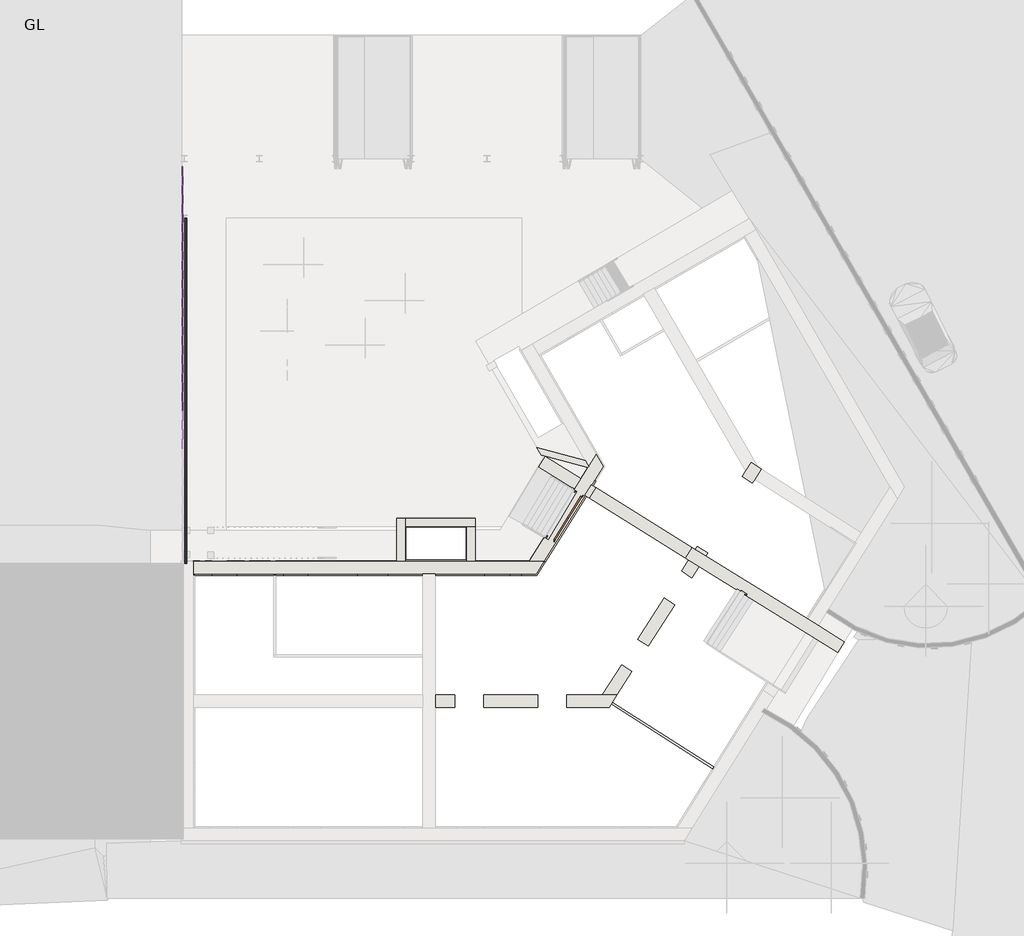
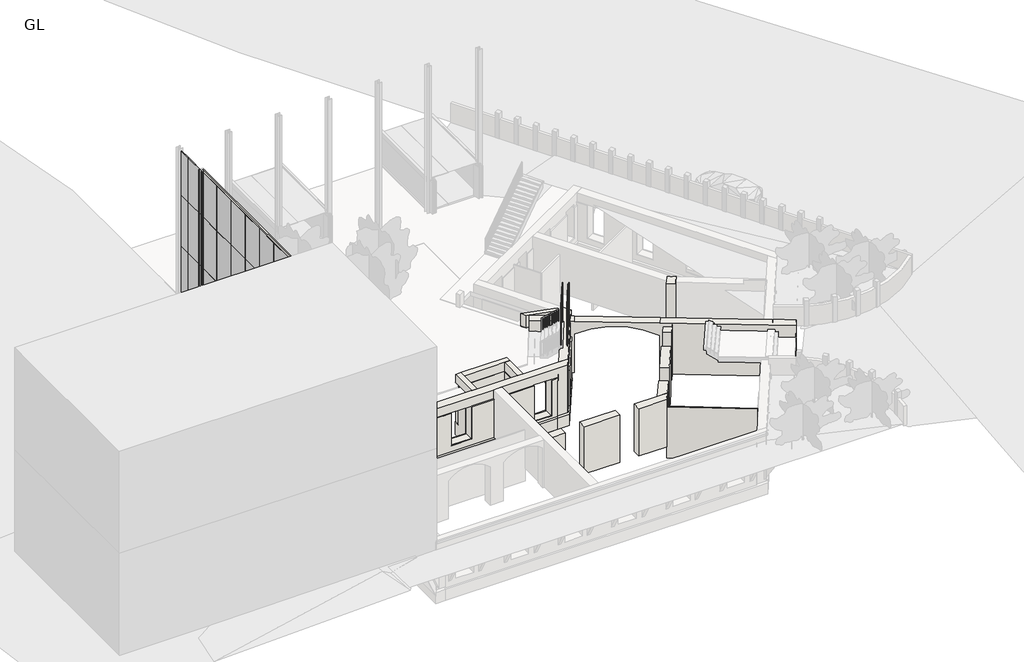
# One storey, part 2 of 6: 22 plates, 21 walls, 1 door.
"""IFC4 building model written with IfcOpenShell, lengths in millimetres."""

import ifcopenshell
import ifcopenshell.guid

model = None  # the IFC model being written
_history = None  # IfcOwnerHistory: only IFC2X3 demands one
_inside = {}  # id of a spatial element -> (the spatial element, [elements in it])
_under = {}  # id of a project, library or spatial element -> (it, [spatial elements below it])
_declared = {}  # id of a project -> (the project, [libraries it declares])
_typed = {}  # id of a type object -> (the type object, [elements of that type])
_made_of = {}  # id of a material, layer set ... -> (it, [elements and type objects made of it])


def new_model(schema):
    """Start an empty IFC model of exactly this schema.

    Asked for "IFC4X3", IfcOpenShell would pick the latest addendum, in which some entities
    have other attributes; the version numbers below select the first issue.
    IFC2X3 requires an IfcOwnerHistory on every rooted entity: one is made here for all.
    """
    global model, _history
    if schema == "IFC4X3":
        model = ifcopenshell.file(schema_version=(4, 3, 0, 0))
    else:
        model = ifcopenshell.file(schema=schema)
    _inside.clear()
    _under.clear()
    _declared.clear()
    _typed.clear()
    _made_of.clear()
    _history = None
    if model.schema == "IFC2X3":
        org = make("IfcOrganization", Name="unknown")
        user = make(
            "IfcPersonAndOrganization",
            ThePerson=make("IfcPerson", FamilyName="unknown"),
            TheOrganization=org,
        )
        app = make(
            "IfcApplication",
            ApplicationDeveloper=org,
            Version="unknown",
            ApplicationFullName="unknown",
            ApplicationIdentifier="unknown",
        )
        _history = make(
            "IfcOwnerHistory",
            OwningUser=user,
            OwningApplication=app,
            ChangeAction="ADDED",
            CreationDate=0,
        )
    return model


def make(cls, **values):
    """One entity of the class cls with the attributes given. An attribute that is None is left unset."""
    return model.create_entity(
        cls, **{name: value for name, value in values.items() if value is not None}
    )


def rooted(cls, **values):
    """An entity with a GlobalId (a new one), such as an element, a storey or a relation."""
    return make(cls, GlobalId=ifcopenshell.guid.new(), OwnerHistory=_history, **values)


def si_unit(unit_type, name, prefix=None):
    """IfcSIUnit, for example si_unit("LENGTHUNIT", "METRE", prefix="MILLI")."""
    return make("IfcSIUnit", UnitType=unit_type, Prefix=prefix, Name=name)


def assignment(units):
    """IfcUnitAssignment: the units of a project."""
    return None if units is None else make("IfcUnitAssignment", Units=units)


def point(xyz):
    """IfcCartesianPoint."""
    return None if xyz is None else make("IfcCartesianPoint", Coordinates=xyz)


def direction(xyz):
    """IfcDirection."""
    return None if xyz is None else make("IfcDirection", DirectionRatios=xyz)


def frame(location, z_axis=None, x_axis=None):
    """IfcAxis2Placement3D, a coordinate frame: its origin and axes. An axis left out is left unset."""
    return make(
        "IfcAxis2Placement3D",
        Location=point(location),
        Axis=direction(z_axis),
        RefDirection=direction(x_axis),
    )


def origin():
    """The frame at (0, 0, 0) with its axes left unset."""
    return frame((0.0, 0.0, 0.0))


def origin_with_axes():
    """The frame at (0, 0, 0) with the z axis (0, 0, 1) and the x axis (1, 0, 0) written out."""
    return frame((0.0, 0.0, 0.0), z_axis=(0.0, 0.0, 1.0), x_axis=(1.0, 0.0, 0.0))


def place(relative_to, where):
    """IfcLocalPlacement: puts the frame where relative to a parent placement (None: the world)."""
    return make(
        "IfcLocalPlacement", PlacementRelTo=relative_to, RelativePlacement=where
    )


def context(
    kind, dimensions, precision=None, world=None, true_north=None, identifier=None
):
    """IfcGeometricRepresentationContext, for example the 3D "Model" context."""
    return make(
        "IfcGeometricRepresentationContext",
        ContextIdentifier=identifier,
        ContextType=kind,
        CoordinateSpaceDimension=dimensions,
        Precision=precision,
        WorldCoordinateSystem=world,
        TrueNorth=true_north,
    )


def project(units=None, contexts=None):
    """IfcProject with its units and contexts."""
    return rooted(
        "IfcProject",
        Name="project",
        RepresentationContexts=contexts,
        UnitsInContext=assignment(units),
    )


def spatial(cls, under=None, at=None, **own):
    """A site, building, storey or space (cls), placed at a placement, below another one or the project."""
    s = rooted(cls, ObjectPlacement=at, **own)
    if under is not None:
        _under.setdefault(under.id(), (under, []))[1].append(s)
    return s


def polyline(points):
    """IfcPolyline through the points."""
    return make("IfcPolyline", Points=[point(p) for p in points])


def circle_curve(where, radius):
    """IfcCircle in the frame where."""
    return make("IfcCircle", Position=where, Radius=radius)


def outline(outer, holes=None, kind="AREA"):
    """IfcArbitraryClosedProfileDef: a profile drawn as a closed curve; with holes, ...WithVoids."""
    if holes is None:
        return make("IfcArbitraryClosedProfileDef", ProfileType=kind, OuterCurve=outer)
    return make(
        "IfcArbitraryProfileDefWithVoids",
        ProfileType=kind,
        OuterCurve=outer,
        InnerCurves=holes,
    )


def extrude(swept, where, along, depth):
    """IfcExtrudedAreaSolid: the profile swept, set in the frame where, extruded along a direction by depth."""
    return make(
        "IfcExtrudedAreaSolid",
        SweptArea=swept,
        Position=where,
        ExtrudedDirection=direction(along),
        Depth=depth,
    )


def faces_of(points, faces, orient=None, outer=None):
    """IfcFace entities. A face is a list of loops; a loop is a list of indices into points, from 0.

    orient and outer hold one flag for each loop. By default every Orientation is true, the
    first loop of a face is its IfcFaceOuterBound and the others are IfcFaceBound.
    """
    made = []
    for i, loops in enumerate(faces):
        bounds = []
        for j, loop in enumerate(loops):
            is_outer = j == 0 if outer is None else outer[i][j]
            bounds.append(
                make(
                    "IfcFaceOuterBound" if is_outer else "IfcFaceBound",
                    Bound=make("IfcPolyLoop", Polygon=[points[k] for k in loop]),
                    Orientation=True if orient is None else orient[i][j],
                )
            )
        made.append(make("IfcFace", Bounds=bounds))
    return made


def faceted_brep(points, faces, orient=None, outer=None, voids=None):
    """IfcFacetedBrep: a solid bounded by flat faces; with voids (closed shells), ...WithVoids."""
    shared = [point(p) for p in points]
    hull = make("IfcClosedShell", CfsFaces=faces_of(shared, faces, orient, outer))
    if voids is None:
        return make("IfcFacetedBrep", Outer=hull)
    return make(
        "IfcFacetedBrepWithVoids",
        Outer=hull,
        Voids=[
            make(cls, CfsFaces=faces_of(shared, fs, o, b)) for cls, fs, o, b in voids
        ],
    )


def shape(context_of_items, identifier, shape_type, items):
    """IfcShapeRepresentation: the items that make up one representation, for example the "Body"."""
    return make(
        "IfcShapeRepresentation",
        ContextOfItems=context_of_items,
        RepresentationIdentifier=identifier,
        RepresentationType=shape_type,
        Items=items,
    )


def source(mapping_origin, context_of_items, identifier, shape_type, items):
    """IfcRepresentationMap: a shape defined once, which mapped items show again and again."""
    return make(
        "IfcRepresentationMap",
        MappingOrigin=mapping_origin,
        MappedRepresentation=shape(context_of_items, identifier, shape_type, items),
    )


def transform(
    local_origin,
    x_axis=None,
    y_axis=None,
    z_axis=None,
    scale=None,
    scale2=None,
    scale3=None,
    uniform=True,
):
    """IfcCartesianTransformationOperator3D, or its non-uniform kind. x_axis, y_axis, z_axis: its Axis1, 2, 3."""
    if uniform:
        return make(
            "IfcCartesianTransformationOperator3D",
            Axis1=direction(x_axis),
            Axis2=direction(y_axis),
            LocalOrigin=point(local_origin),
            Scale=scale,
            Axis3=direction(z_axis),
        )
    return make(
        "IfcCartesianTransformationOperator3DnonUniform",
        Axis1=direction(x_axis),
        Axis2=direction(y_axis),
        LocalOrigin=point(local_origin),
        Scale=scale,
        Axis3=direction(z_axis),
        Scale2=scale2,
        Scale3=scale3,
    )


def mapped(mapping_source, mapping_target):
    """IfcMappedItem: shows the shape of a source again, moved by a transform."""
    return make(
        "IfcMappedItem", MappingSource=mapping_source, MappingTarget=mapping_target
    )


def made_of(thing, what):
    """Note that an element or type object is made of a material, layer set ...; save() writes the relation."""
    if what is not None:
        _made_of.setdefault(what.id(), (what, []))[1].append(thing)
    return thing


def element(
    cls,
    number,
    at=None,
    inside=None,
    cuts=None,
    type_object=None,
    material=None,
    context=None,
    identifier="Body",
    shape_type=None,
    held_by="IfcProductDefinitionShape",
    body=None,
    shapes=None,
    **own,
):
    """One element of the class cls, such as IfcWall. Its Tag is "e" and its number.

    at: its placement. inside: the storey or other place that contains it. cuts: it is an
    opening in that element (IfcRelVoidsElement). A single representation is given by context,
    identifier, shape_type and body (its items); several are given by shapes. held_by: the class
    of the entity that holds the representations. save() writes the other relations.
    """
    e = rooted(cls, Tag="e%d" % number, ObjectPlacement=at, **own)
    if body is not None:
        shapes = [shape(context, identifier, shape_type, body)]
    if shapes is not None:
        e.Representation = make(held_by, Representations=shapes)
    if inside is not None:
        _inside.setdefault(inside.id(), (inside, []))[1].append(e)
    if cuts is not None:
        rooted(
            "IfcRelVoidsElement", RelatingBuildingElement=cuts, RelatedOpeningElement=e
        )
    if type_object is not None:
        _typed.setdefault(type_object.id(), (type_object, []))[1].append(e)
    return made_of(e, material)


def aggregate(whole, parts):
    """IfcRelAggregates: a whole, such as a stair, and the parts it consists of."""
    return rooted("IfcRelAggregates", RelatingObject=whole, RelatedObjects=parts)


def save(model, path):
    """Write the relations noted so far, then the file.

    IfcRelAggregates (storeys below a building ...), IfcRelContainedInSpatialStructure (elements
    in a storey), IfcRelDefinesByType, IfcRelAssociatesMaterial and IfcRelDeclares: one each for
    every whole, place, type object, material and project.
    """
    for whole, parts in _under.values():
        aggregate(whole, parts)
    for where, things in _inside.values():
        rooted(
            "IfcRelContainedInSpatialStructure",
            RelatedElements=things,
            RelatingStructure=where,
        )
    for kind, things in _typed.values():
        rooted("IfcRelDefinesByType", RelatedObjects=things, RelatingType=kind)
    for what, things in _made_of.values():
        rooted("IfcRelAssociatesMaterial", RelatedObjects=things, RelatingMaterial=what)
    for by, libraries in _declared.values():
        rooted("IfcRelDeclares", RelatingContext=by, RelatedDefinitions=libraries)
    model.write(path)


def plane_surface(at):
    """IfcPlane: the flat surface through the origin of the frame at, square to its z axis."""
    return make("IfcPlane", Position=at)


def revolved_surface(curve, axis_point, axis_direction):
    """IfcSurfaceOfRevolution: the curve turned about the line through axis_point along axis_direction."""
    return make(
        "IfcSurfaceOfRevolution",
        SweptCurve=make("IfcArbitraryOpenProfileDef", ProfileType="CURVE", Curve=curve),
        AxisPosition=make("IfcAxis1Placement", Location=point(axis_point), Axis=direction(axis_direction)),
    )


def advanced_brep(points, edges, surfaces, faces):
    """IfcAdvancedBrep: a solid bounded by faces that lie on surfaces and meet in shared edges.

    An edge is (start, end): straight between two places in points (the first is 0);
    or (start, end, curve); or (start, end, curve, False) where it runs against its curve.
    A face is (place in surfaces, loops), or (place, loops, False) where it looks against
    its surface's normal. A loop lists edges by number (the first is 1), with a minus sign
    where the edge is run from its end to its start. The first loop is the outer one.
    """
    corners = [point(p) for p in points]
    vertices = [make("IfcVertexPoint", VertexGeometry=c) for c in corners]
    made = []
    for start, end, *more in edges:
        made.append(
            make(
                "IfcEdgeCurve",
                EdgeStart=vertices[start],
                EdgeEnd=vertices[end],
                EdgeGeometry=more[0] if more else make("IfcPolyline", Points=[corners[start], corners[end]]),
                SameSense=more[1] if len(more) > 1 else True,
            )
        )
    hull = []
    for where, loops, *sense in faces:
        bounds = []
        for j, loop in enumerate(loops):
            ring = [make("IfcOrientedEdge", EdgeElement=made[abs(k) - 1], Orientation=k > 0) for k in loop]
            bounds.append(
                make(
                    "IfcFaceOuterBound" if j == 0 else "IfcFaceBound",
                    Bound=make("IfcEdgeLoop", EdgeList=ring),
                    Orientation=True,
                )
            )
        hull.append(make("IfcAdvancedFace", Bounds=bounds, FaceSurface=surfaces[where], SameSense=sense[0] if sense else True))
    return make("IfcAdvancedBrep", Outer=make("IfcClosedShell", CfsFaces=hull))


def door_19680be1(model_context):
    return source(origin(), model_context, "Body", "SweptSolid", [
        extrude(outline(polyline([(3032.0, -1250.0), (3032.0, 1250.0), (0.0, 1250.0), (0.0, 1326.2), (3108.2, 1326.2), (3108.2, -1326.2), (0.0, -1326.2), (0.0, -1250.0), (3032.0, -1250.0)])), frame((0.0, -225.4, 0.0), z_axis=(0.0, 1.0, 0.0), x_axis=(0.0, 0.0, 1.0)), (0.0, 0.0, 1.0), 25.4),
        extrude(outline(polyline([(3032.0, -1250.0), (3032.0, 1250.0), (0.0, 1250.0), (0.0, 1326.2), (3108.2, 1326.2), (3108.2, -1326.2), (0.0, -1326.2), (0.0, -1250.0), (3032.0, -1250.0)])), frame((0.0, 200.0, 0.0), z_axis=(0.0, 1.0, 0.0), x_axis=(0.0, 0.0, 1.0)), (0.0, 0.0, 1.0), 25.4),
        extrude(outline(polyline([(0.0, 200.0), (1250.0, 200.0), (1250.0, 149.2), (0.0, 149.2), (0.0, 200.0)])), origin_with_axes(), (0.0, 0.0, 1.0), 3032.0),
        extrude(outline(polyline([(-1250.0, 200.0), (0.0, 200.0), (0.0, 149.2), (-1250.0, 149.2), (-1250.0, 200.0)])), origin_with_axes(), (0.0, 0.0, 1.0), 3032.0),
    ])


def system_panel_glazed_66cf68f7(model_context):
    return source(origin(), model_context, "Body", "SweptSolid", [
        extrude(outline(polyline([(915.0000002, 24.5), (-915.0000002, 24.5), (-915.0000002, 49.5), (915.0000002, 49.5), (915.0000002, 24.5)])), origin_with_axes(), (0.0, 0.0, 1.0), 4000.0),
    ])


def system_panel_glazed_8eb3f3f8(model_context):
    return source(origin(), model_context, "Body", "SweptSolid", [
        extrude(outline(polyline([(449.9999998, 24.5), (-449.9999998, 24.5), (-449.9999998, 49.5), (449.9999998, 49.5), (449.9999998, 24.5)])), origin_with_axes(), (0.0, 0.0, 1.0), 4000.0),
    ])


def system_panel_glazed_80cdc29d(model_context):
    return source(origin(), model_context, "Body", "SweptSolid", [
        extrude(outline(polyline([(915.0000002, 24.5), (-915.0000002, 24.5), (-915.0000002, 49.5), (915.0000002, 49.5), (915.0000002, 24.5)])), origin_with_axes(), (0.0, 0.0, 1.0), 3500.0),
    ])


def system_panel_glazed_a76a2e6a(model_context):
    return source(origin(), model_context, "Body", "SweptSolid", [
        extrude(outline(polyline([(449.9999998, 24.5), (-449.9999998, 24.5), (-449.9999998, 49.5), (449.9999998, 49.5), (449.9999998, 24.5)])), origin_with_axes(), (0.0, 0.0, 1.0), 3500.0),
    ])


model = new_model("IFC4")

# Units and contexts
model_context = context("Model", 3, world=origin())
ifc_project = project(units=[si_unit("LENGTHUNIT", "METRE", prefix="MILLI")], contexts=[model_context])

# Site, building, storey
site = spatial("IfcSite", under=ifc_project)
building = spatial("IfcBuilding", under=site)
storey = spatial("IfcBuildingStorey", under=building, Name="GL", Elevation=0.0)

# Door
placement = place(None, origin())
door_shape = door_19680be1(model_context)
element("IfcDoor", 1, ObjectType="Door-Double-Flush_Panel : 68\" x 80\"", at=placement, inside=storey, context=model_context, shape_type="MappedRepresentation", body=[
    mapped(door_shape, transform((5225.3413452, 11781.7958464, 960.0), x_axis=(-0.5299192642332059, -0.8480480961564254, 0.0), y_axis=(0.8480480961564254, -0.5299192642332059, 0.0), z_axis=(0.0, 0.0, 1.0))),
])

# Plates
system_panel_glazed_shape = system_panel_glazed_66cf68f7(model_context)
element("IfcPlate", 2, ObjectType="System Panel : Glazed", at=placement, inside=storey, context=model_context, shape_type="MappedRepresentation", body=[
    mapped(system_panel_glazed_shape, transform((-13331.6874983, 17825.0288257, 0.0), x_axis=(0.0, 1.0, 0.0), y_axis=(-1.0, 0.0, 0.0), z_axis=(0.0, 0.0, 1.0))),
])
element("IfcPlate", 3, ObjectType="System Panel : Glazed", at=placement, inside=storey, context=model_context, shape_type="MappedRepresentation", body=[
    mapped(system_panel_glazed_shape, transform((-13331.6874983, 19655.0288257, 0.0), x_axis=(0.0, 1.0, 0.0), y_axis=(-1.0, 0.0, 0.0), z_axis=(0.0, 0.0, 1.0))),
])
element("IfcPlate", 4, ObjectType="System Panel : Glazed", at=placement, inside=storey, context=model_context, shape_type="MappedRepresentation", body=[
    mapped(system_panel_glazed_shape, transform((-13331.6874983, 21485.0288257, 0.0), x_axis=(0.0, 1.0, 0.0), y_axis=(-1.0, 0.0, 0.0), z_axis=(0.0, 0.0, 1.0))),
])
element("IfcPlate", 5, ObjectType="System Panel : Glazed", at=placement, inside=storey, context=model_context, shape_type="MappedRepresentation", body=[
    mapped(system_panel_glazed_shape, transform((-13331.6874983, 23315.0288257, 0.0), x_axis=(0.0, 1.0, 0.0), y_axis=(-1.0, 0.0, 0.0), z_axis=(0.0, 0.0, 1.0))),
])
element("IfcPlate", 6, ObjectType="System Panel : Glazed", at=placement, inside=storey, context=model_context, shape_type="MappedRepresentation", body=[
    mapped(system_panel_glazed_shape, transform((-13331.6874983, 25145.0288257, 0.0), x_axis=(0.0, 1.0, 0.0), y_axis=(-1.0, 0.0, 0.0), z_axis=(0.0, 0.0, 1.0))),
])
element("IfcPlate", 7, ObjectType="System Panel : Glazed", at=placement, inside=storey, context=model_context, shape_type="MappedRepresentation", body=[
    mapped(system_panel_glazed_shape, transform((-13331.6874983, 26975.0288257, 0.0), x_axis=(0.0, 1.0, 0.0), y_axis=(-1.0, 0.0, 0.0), z_axis=(0.0, 0.0, 1.0))),
])
element("IfcPlate", 8, ObjectType="System Panel : Glazed", at=placement, inside=storey, context=model_context, shape_type="MappedRepresentation", body=[
    mapped(system_panel_glazed_shape, transform((-13331.6874983, 17825.0288257, 4000.0), x_axis=(0.0, 1.0, 0.0), y_axis=(-1.0, 0.0, 0.0), z_axis=(0.0, 0.0, 1.0))),
])
element("IfcPlate", 9, ObjectType="System Panel : Glazed", at=placement, inside=storey, context=model_context, shape_type="MappedRepresentation", body=[
    mapped(system_panel_glazed_shape, transform((-13331.6874983, 19655.0288257, 4000.0), x_axis=(0.0, 1.0, 0.0), y_axis=(-1.0, 0.0, 0.0), z_axis=(0.0, 0.0, 1.0))),
])
element("IfcPlate", 10, ObjectType="System Panel : Glazed", at=placement, inside=storey, context=model_context, shape_type="MappedRepresentation", body=[
    mapped(system_panel_glazed_shape, transform((-13331.6874983, 21485.0288257, 4000.0), x_axis=(0.0, 1.0, 0.0), y_axis=(-1.0, 0.0, 0.0), z_axis=(0.0, 0.0, 1.0))),
])
element("IfcPlate", 11, ObjectType="System Panel : Glazed", at=placement, inside=storey, context=model_context, shape_type="MappedRepresentation", body=[
    mapped(system_panel_glazed_shape, transform((-13331.6874983, 23315.0288257, 4000.0), x_axis=(0.0, 1.0, 0.0), y_axis=(-1.0, 0.0, 0.0), z_axis=(0.0, 0.0, 1.0))),
])
element("IfcPlate", 12, ObjectType="System Panel : Glazed", at=placement, inside=storey, context=model_context, shape_type="MappedRepresentation", body=[
    mapped(system_panel_glazed_shape, transform((-13331.6874983, 25145.0288257, 4000.0), x_axis=(0.0, 1.0, 0.0), y_axis=(-1.0, 0.0, 0.0), z_axis=(0.0, 0.0, 1.0))),
])
element("IfcPlate", 13, ObjectType="System Panel : Glazed", at=placement, inside=storey, context=model_context, shape_type="MappedRepresentation", body=[
    mapped(system_panel_glazed_shape, transform((-13331.6874983, 26975.0288257, 4000.0), x_axis=(0.0, 1.0, 0.0), y_axis=(-1.0, 0.0, 0.0), z_axis=(0.0, 0.0, 1.0))),
])
system_panel_glazed_2_shape = system_panel_glazed_8eb3f3f8(model_context)
element("IfcPlate", 14, ObjectType="System Panel : Glazed", at=placement, inside=storey, context=model_context, shape_type="MappedRepresentation", body=[
    mapped(system_panel_glazed_2_shape, transform((-13331.6874983, 28340.0288256, 0.0), x_axis=(0.0, 1.0, 0.0), y_axis=(-1.0, 0.0, 0.0), z_axis=(0.0, 0.0, 1.0))),
])
element("IfcPlate", 15, ObjectType="System Panel : Glazed", at=placement, inside=storey, context=model_context, shape_type="MappedRepresentation", body=[
    mapped(system_panel_glazed_2_shape, transform((-13331.6874983, 28340.0288256, 4000.0), x_axis=(0.0, 1.0, 0.0), y_axis=(-1.0, 0.0, 0.0), z_axis=(0.0, 0.0, 1.0))),
])
system_panel_glazed_3_shape = system_panel_glazed_80cdc29d(model_context)
element("IfcPlate", 16, ObjectType="System Panel : Glazed", at=placement, inside=storey, context=model_context, shape_type="MappedRepresentation", body=[
    mapped(system_panel_glazed_3_shape, transform((-13331.6874983, 15995.0288257, 8000.0), x_axis=(0.0, 1.0, 0.0), y_axis=(-1.0, 0.0, 0.0), z_axis=(0.0, 0.0, 1.0))),
])
element("IfcPlate", 17, ObjectType="System Panel : Glazed", at=placement, inside=storey, context=model_context, shape_type="MappedRepresentation", body=[
    mapped(system_panel_glazed_3_shape, transform((-13331.6874983, 17825.0288257, 8000.0), x_axis=(0.0, 1.0, 0.0), y_axis=(-1.0, 0.0, 0.0), z_axis=(0.0, 0.0, 1.0))),
])
element("IfcPlate", 18, ObjectType="System Panel : Glazed", at=placement, inside=storey, context=model_context, shape_type="MappedRepresentation", body=[
    mapped(system_panel_glazed_3_shape, transform((-13331.6874983, 19655.0288257, 8000.0), x_axis=(0.0, 1.0, 0.0), y_axis=(-1.0, 0.0, 0.0), z_axis=(0.0, 0.0, 1.0))),
])
element("IfcPlate", 19, ObjectType="System Panel : Glazed", at=placement, inside=storey, context=model_context, shape_type="MappedRepresentation", body=[
    mapped(system_panel_glazed_3_shape, transform((-13331.6874983, 21485.0288257, 8000.0), x_axis=(0.0, 1.0, 0.0), y_axis=(-1.0, 0.0, 0.0), z_axis=(0.0, 0.0, 1.0))),
])
element("IfcPlate", 20, ObjectType="System Panel : Glazed", at=placement, inside=storey, context=model_context, shape_type="MappedRepresentation", body=[
    mapped(system_panel_glazed_3_shape, transform((-13331.6874983, 23315.0288257, 8000.0), x_axis=(0.0, 1.0, 0.0), y_axis=(-1.0, 0.0, 0.0), z_axis=(0.0, 0.0, 1.0))),
])
element("IfcPlate", 21, ObjectType="System Panel : Glazed", at=placement, inside=storey, context=model_context, shape_type="MappedRepresentation", body=[
    mapped(system_panel_glazed_3_shape, transform((-13331.6874983, 25145.0288257, 8000.0), x_axis=(0.0, 1.0, 0.0), y_axis=(-1.0, 0.0, 0.0), z_axis=(0.0, 0.0, 1.0))),
])
element("IfcPlate", 22, ObjectType="System Panel : Glazed", at=placement, inside=storey, context=model_context, shape_type="MappedRepresentation", body=[
    mapped(system_panel_glazed_3_shape, transform((-13331.6874983, 26975.0288257, 8000.0), x_axis=(0.0, 1.0, 0.0), y_axis=(-1.0, 0.0, 0.0), z_axis=(0.0, 0.0, 1.0))),
])
system_panel_glazed_4_shape = system_panel_glazed_a76a2e6a(model_context)
element("IfcPlate", 23, ObjectType="System Panel : Glazed", at=placement, inside=storey, context=model_context, shape_type="MappedRepresentation", body=[
    mapped(system_panel_glazed_4_shape, transform((-13331.6874983, 28340.0288256, 8000.0), x_axis=(0.0, 1.0, 0.0), y_axis=(-1.0, 0.0, 0.0), z_axis=(0.0, 0.0, 1.0))),
])

# Walls
element("IfcWall", 24, ObjectType="Wall-Partn_12P-70MStd-12P", at=placement, inside=storey, context=model_context, shape_type="SweptSolid", body=[
    extrude(outline(polyline([(7543.3208311, 2734.0201003), (12476.1074884, -419.9355489), (12425.8715825, -500.5742297), (7492.1455876, 2653.9820191), (7543.3208311, 2734.0201003)])), frame((0.0, 0.0, -4000.0), z_axis=(0.0, 0.0, 1.0), x_axis=(1.0, 0.0, 0.0)), (0.0, 0.0, 1.0), 4000.0),
])
element("IfcWall", 25, ObjectType="Wall-Fnd_440Blk", at=placement, inside=storey, context=model_context, shape_type="Brep", body=[
    faceted_brep([(-2511.9484639, 9665.0288254, 0.0), (-2511.9484639, 9665.0288254, -4000.0), (-2511.9484639, 11270.0288254, -4000.0), (-2511.9484639, 11710.0288254, -4000.0), (-2511.9484639, 11710.0288254, -3000.0), (-2511.9484639, 11290.0288254, -3000.0), (-2511.9484639, 11290.0288254, 0.0), (-2511.9484639, 11270.0288254, 0.0), (-2951.9484639, 9665.0288254, -4000.0), (-2951.9484639, 9665.0288254, 0.0), (-2951.9484639, 11290.0288254, 0.0), (-2951.9484639, 11290.0288254, -3000.0), (-2951.9484639, 11710.0288254, -3000.0), (-2951.9484639, 11710.0288254, -4000.0), (-2531.9484639, 11290.0288254, -3000.0)], [[[0, 1, 2, 3, 4, 5, 6, 7]], [[8, 9, 10, 11, 12, 13]], [[3, 2, 1, 8, 13]], [[0, 7, 6, 10, 9]], [[4, 3, 13, 12]], [[6, 5, 14, 11, 10]], [[11, 14, 5, 4, 12]], [[0, 9, 8, 1]]]),
])
element("IfcWall", 26, ObjectType="Wall-Fnd_440Blk", at=placement, inside=storey, context=model_context, shape_type="Brep", body=[
    faceted_brep([(-2511.9484639, 11270.0288254, 0.0), (-2511.9484639, 11270.0288254, -4000.0), (448.0515361, 11270.0288254, -4000.0), (888.0515361, 11270.0288254, -4000.0), (888.0515361, 11270.0288254, -3000.0), (468.0515361, 11270.0288254, -3000.0), (468.0515361, 11270.0288254, 0.0), (448.0515361, 11270.0288254, 0.0), (-2511.9484639, 11710.0288254, -4000.0), (-2511.9484639, 11710.0288254, -3000.0), (-2511.9484639, 11710.0288254, 0.0), (468.0515361, 11710.0288254, 0.0), (468.0515361, 11710.0288254, -3000.0), (888.0515361, 11710.0288254, -3000.0), (888.0515361, 11710.0288254, -4000.0), (-2511.9484639, 11290.0288254, 0.0), (468.0515361, 11290.0288254, -3000.0)], [[[0, 1, 2, 3, 4, 5, 6, 7]], [[8, 9, 10, 11, 12, 13, 14]], [[3, 2, 1, 8, 14]], [[0, 7, 6, 11, 10, 15]], [[0, 15, 10, 9, 8, 1]], [[4, 3, 14, 13]], [[6, 5, 16, 12, 11]], [[12, 16, 5, 4, 13]]]),
])
element("IfcWall", 27, ObjectType="Wall-Fnd_440Blk", at=placement, inside=storey, context=model_context, shape_type="Brep", body=[
    faceted_brep([(448.0515361, 11270.0288254, 0.0), (448.0515361, 11270.0288254, -4000.0), (448.0515361, 9665.0288254, -4000.0), (448.0515361, 9665.0288254, 0.0), (888.0515361, 11270.0288254, -4000.0), (888.0515361, 11270.0288254, -3000.0), (888.0515361, 11270.0288254, 0.0), (888.0515361, 9665.0288254, 0.0), (888.0515361, 9665.0288254, -4000.0), (468.0515361, 11270.0288254, 0.0)], [[[0, 1, 2, 3]], [[4, 5, 6, 7, 8]], [[2, 1, 4, 8]], [[0, 3, 7, 6, 9]], [[0, 9, 6, 5, 4, 1]], [[2, 8, 7, 3]]]),
])
element("IfcWall", 28, ObjectType="Wall-Fnd_750Con_Footing", at=placement, inside=storey, context=model_context, shape_type="Brep", body=[
    faceted_brep([(3876.178396, 8915.0288254, -4000.0), (6729.1371107, 13480.7171666, -4000.0), (6729.1371107, 13480.7171666, -3140.0), (3876.178396, 8915.0288254, -3140.0), (6304.4233417, 14216.3429932, -4000.0), (3460.4466074, 9665.0288254, -4000.0), (2991.7945934, 8915.0288254, -4000.0), (2991.7945934, 8915.0288254, -3470.0), (2991.7945934, 8915.0288254, -3140.0), (4738.304432, 11710.0288254, -3140.0), (5319.0859714, 12639.4735766, -3140.0), (6304.4233417, 14216.3429932, -3140.0)], [[[0, 1, 2, 3]], [[4, 5, 6, 7, 8, 9, 10, 11]], [[1, 0, 6, 5, 4]], [[1, 4, 11, 2]], [[6, 0, 3, 8, 7]], [[3, 2, 11, 10, 9, 8]]]),
    faceted_brep([(6729.1371107, 13480.7171666, -211.0), (4297.9652085, 9590.0288254, -211.0), (4297.9652085, 9590.0288254, -3000.0), (6729.1371107, 13480.7171666, -3000.0), (3413.581406, 9590.0288254, -211.0), (3460.4466074, 9665.0288254, -211.0), (6304.4233417, 14216.3429932, -211.0), (6304.4233417, 14216.3429932, -3000.0), (5319.0859714, 12639.4735766, -3000.0), (4738.304432, 11710.0288254, -3000.0), (3460.4466074, 9665.0288254, -3000.0), (3413.581406, 9590.0288254, -3000.0), (6346.8947186, 14142.7804105, -211.0), (6346.8947186, 14142.7804105, -3000.0)], [[[0, 1, 2, 3]], [[4, 5, 6, 7, 8, 9, 10, 11]], [[1, 0, 12, 6, 5, 4]], [[6, 12, 0, 3, 13, 7]], [[1, 4, 11, 2]], [[3, 2, 11, 10, 9, 8, 7, 13]]]),
])
element("IfcWall", 29, ObjectType="Wall-Fnd_750Con_Footing", at=placement, inside=storey, context=model_context, shape_type="Brep", body=[
    faceted_brep([(3080.2329737, 8915.0288254, 0.0), (2578.2450199, 8915.0288254, 0.0), (2578.2450199, 8915.0288254, -2799.2029508), (1305.4894821, 8915.0288254, -2799.2029508), (1305.4894821, 8915.0288254, 0.0), (-3345.051238, 8915.0288254, 0.0), (-3345.051238, 8915.0288254, -2531.318426), (-4853.0839869, 8915.0288254, -2531.318426), (-4853.0839869, 8915.0288254, 0.0), (-7254.7519516, 8915.0288254, 0.0), (-7254.7519516, 8915.0288254, -2492.4303415), (-8456.339543, 8915.0288254, -2492.4303415), (-8456.339543, 8915.0288254, 0.0), (-8829.4484639, 8915.0288254, 0.0), (-8924.4484639, 8915.0288254, 0.0), (-10690.1634545, 8915.0288254, 0.0), (-10690.1634545, 8915.0288254, -2484.3659953), (-11948.2014697, 8915.0288254, -2484.3659953), (-11948.2014697, 8915.0288254, 0.0), (-12756.6874983, 8915.0288254, 0.0), (-12831.6874983, 8915.0288254, 0.0), (-12831.6874983, 8915.0288254, -3000.0), (-12756.6874983, 8915.0288254, -3000.0), (2991.7945934, 8915.0288254, -3000.0), (2991.7945934, 8915.0288254, -211.0), (3080.2329737, 8915.0288254, -211.0), (2578.2450199, 9665.0288254, 0.0), (3548.8849876, 9665.0288254, 0.0), (3548.8849876, 9665.0288254, -211.0), (3460.4466074, 9665.0288254, -211.0), (3460.4466074, 9665.0288254, -3000.0), (-12831.6874983, 9665.0288254, -3000.0), (-12831.6874983, 9665.0288254, 0.0), (-11948.2014697, 9665.0288254, 0.0), (-11948.2014697, 9665.0288254, -2484.3659953), (-10690.1634545, 9665.0288254, -2484.3659953), (-10690.1634545, 9665.0288254, 0.0), (-8456.339543, 9665.0288254, 0.0), (-8456.339543, 9665.0288254, -2492.4303415), (-7254.7519516, 9665.0288254, -2492.4303415), (-7254.7519516, 9665.0288254, 0.0), (-4853.0839869, 9665.0288254, 0.0), (-4853.0839869, 9665.0288254, -2531.318426), (-3345.051238, 9665.0288254, -2531.318426), (-3345.051238, 9665.0288254, 0.0), (1305.4894821, 9665.0288254, 0.0), (1305.4894821, 9665.0288254, -2799.2029508), (2578.2450199, 9665.0288254, -2799.2029508), (3413.581406, 9590.0288254, -3000.0), (3413.581406, 9590.0288254, -211.0)], [[[0, 1, 2, 3, 4, 5, 6, 7, 8, 9, 10, 11, 12, 13, 14, 15, 16, 17, 18, 19, 20, 21, 22, 23, 24, 25]], [[26, 27, 28, 29, 30, 31, 32, 33, 34, 35, 36, 37, 38, 39, 40, 41, 42, 43, 44, 45, 46, 47]], [[21, 20, 32, 31]], [[23, 22, 21, 31, 30, 48]], [[29, 49, 24, 23, 48, 30]], [[0, 25, 28, 27]], [[1, 0, 27, 26]], [[6, 5, 44, 43]], [[7, 6, 43, 42]], [[8, 7, 42, 41]], [[9, 8, 41, 40]], [[10, 9, 40, 39]], [[11, 10, 39, 38]], [[12, 11, 38, 37]], [[15, 14, 13, 12, 37, 36]], [[16, 15, 36, 35]], [[17, 16, 35, 34]], [[18, 17, 34, 33]], [[20, 19, 18, 33, 32]], [[2, 1, 26, 47]], [[3, 2, 47, 46]], [[4, 3, 46, 45]], [[5, 4, 45, 44]], [[25, 24, 49, 29, 28]]]),
    faceted_brep([(-13506.6874983, 8915.0288254, -4000.0), (-12756.6874983, 8915.0288254, -4000.0), (-8924.4484639, 8915.0288254, -4000.0), (-8829.4484639, 8915.0288254, -4000.0), (2991.7945934, 8915.0288254, -4000.0), (2991.7945934, 8915.0288254, -3140.0), (-13506.6874983, 8915.0288254, -3140.0), (-13506.6874983, 8915.0288254, -3470.0), (3460.4466074, 9665.0288254, -4000.0), (-13506.6874983, 9665.0288254, -4000.0), (-13506.6874983, 9665.0288254, -3140.0), (3460.4466074, 9665.0288254, -3140.0)], [[[0, 1, 2, 3, 4, 5, 6, 7]], [[8, 9, 10, 11]], [[9, 0, 7, 6, 10]], [[6, 5, 11, 10]], [[4, 8, 11, 5]], [[4, 3, 2, 1, 0, 9, 8]]]),
])
element("IfcWall", 30, ObjectType="Wall-Partn_12P-75Std-12P", at=placement, inside=storey, context=model_context, shape_type="SweptSolid", body=[
    extrude(outline(polyline([(9590.0288254, 0.0), (9590.0288254, 1000.0), (9490.0288254, 1000.0), (9490.0288254, 6300.0), (9590.0288254, 6300.0), (9590.0288254, 11500.0), (26292.1681881, 11500.0), (26292.1681881, 0.0), (9590.0288254, 0.0)])), frame((-13246.6874983, 0.0, 0.0), z_axis=(1.0, 0.0, 0.0), x_axis=(0.0, 1.0, 0.0)), (0.0, 0.0, 1.0), 100.0),
])
element("IfcWall", 31, ObjectType="Wall-Ret_300Con", at=placement, inside=storey, context=model_context, shape_type="SweptSolid", body=[
    extrude(outline(polyline([(9290.0288254, -2785.1), (9290.0288254, -211.0), (11490.0288254, -211.0), (11490.0288254, -436.0), (10653.3621587, -436.0), (9553.4673439, -2785.1), (9290.0288254, -2785.1)])), frame((2911.817394, 0.0, 0.0), z_axis=(1.0, 0.0, 0.0), x_axis=(0.0, 1.0, 0.0)), (0.0, 0.0, 1.0), 300.0),
])
element("IfcWall", 32, ObjectType="Wall-Ret_300Con", at=placement, inside=storey, context=model_context, shape_type="Brep", body=[
    faceted_brep([(6123.5186906, 14529.6790402, -3000.0), (4290.6378462, 15020.7979823, -3000.0), (3880.8302251, 15130.6056035, -3000.0), (3880.8302251, 15130.6056035, 700.0), (3880.8302251, 15130.6056035, 1000.0), (6225.9705959, 14502.227135, 1000.0), (6225.9705959, 14502.227135, -211.0), (6123.5186906, 14529.6790402, -211.0), (6279.9516506, 14177.1801008, -3000.0), (6279.9516506, 14177.1801008, -211.0), (6355.7062011, 14156.8817302, -211.0), (6355.7062011, 14156.8817302, 1000.0), (4092.9622594, 14763.182142, 1000.0), (4092.9622594, 14763.182142, -3000.0), (5235.7252569, 14456.9797197, -3000.0), (5537.1808845, 14376.2049278, -3000.0), (6304.4233417, 14216.3429932, -3000.0), (6391.9075202, 14214.8159512, 1000.0), (6391.9075202, 14214.8159512, -211.0), (6391.9075202, 14214.8159512, 700.0), (6304.4233417, 14216.3429932, -211.0)], [[[0, 1, 2, 3, 4, 5, 6, 7]], [[8, 9, 10, 11, 12, 13, 14, 15]], [[2, 1, 0, 16, 8, 15, 14, 13]], [[5, 4, 12, 11, 17]], [[17, 11, 10, 18, 19]], [[4, 3, 2, 13, 12]], [[6, 18, 10, 9, 20, 7]], [[0, 7, 20, 16]], [[20, 9, 8, 16]], [[6, 5, 17, 19, 18]]]),
])
element("IfcWall", 33, ObjectType="Wall-Ret_300Con 2", at=placement, inside=storey, context=model_context, shape_type="SweptSolid", body=[
    extrude(outline(polyline([(-38.1946395, 0.0), (203.2507588, 0.0), (1718.6835814, -2636.7081274), (-38.1946395, -2636.7081274), (-38.1946395, 0.0)])), frame((13494.4065619, 433.20125, -2801.8794051), z_axis=(0.5287625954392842, 0.8487697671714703, 0.0), x_axis=(0.8487697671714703, -0.5287625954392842, 0.0)), (0.0, 0.0, 1.0), 200.0),
])
element("IfcWall", 34, ObjectType="Wall-Ret_300Con 2", at=placement, inside=storey, context=model_context, shape_type="SweptSolid", body=[
    extrude(outline(polyline([(-300.0, 0.0), (-43.6281996, 0.0), (1460.9701114, -2617.8571136), (-300.0, -2617.8571136), (-300.0, 0.0)])), frame((14911.9453884, 2213.5063384, -2775.9088933), z_axis=(0.528762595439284, 0.8487697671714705, 0.0), x_axis=(0.8487697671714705, -0.528762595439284, 0.0)), (0.0, 0.0, 1.0), 200.0),
])
element("IfcWall", 35, ObjectType="Wall-Ret_300Con 2", at=placement, inside=storey, context=model_context, shape_type="SweptSolid", body=[
    extrude(outline(polyline([(9290.0288254, -2785.1), (9290.0288254, 0.0), (11090.0288254, 0.0), (9542.7510476, -2785.1), (9290.0288254, -2785.1)])), frame((-6831.9484639, 0.0, 0.0), z_axis=(1.0, 0.0, 0.0), x_axis=(0.0, 1.0, 0.0)), (0.0, 0.0, 1.0), 200.0),
])
element("IfcWall", 36, ObjectType="Wall-Ret_300Con 2", at=placement, inside=storey, context=model_context, shape_type="SweptSolid", body=[
    extrude(outline(polyline([(9290.0288254, -2785.1), (9290.0288254, 0.0), (11090.0288254, 0.0), (9542.7510476, -2785.1), (9290.0288254, -2785.1)])), frame((-5531.9484639, 0.0, 0.0), z_axis=(1.0, 0.0, 0.0), x_axis=(0.0, 1.0, 0.0)), (0.0, 0.0, 1.0), 200.0),
])
element("IfcWall", 37, ObjectType="ug wall", at=placement, inside=storey, context=model_context, shape_type="Brep", body=[
    faceted_brep([(-12831.6874983, 8990.0288254, -3000.0), (3834.6052171, 8990.0288254, -3000.0), (3834.6052171, 8990.0288254, 700.0), (-1076.9484639, 8990.0288254, 700.0), (-1676.9484639, 8990.0288254, 700.0), (-12831.6874983, 8990.0288254, 700.0), (-11948.2014697, 8990.0288254, 15.5813425), (-10690.1634545, 8990.0288254, 15.5813425), (-10690.1634545, 8990.0288254, -2484.3659953), (-11948.2014697, 8990.0288254, -2484.3659953), (-8456.339543, 8990.0288254, 7.5169963), (-7254.7519516, 8990.0288254, 7.5169963), (-7254.7519516, 8990.0288254, -2492.4303415), (-8456.339543, 8990.0288254, -2492.4303415), (-4853.0839869, 8990.0288254, -23.3067419), (-3345.051238, 8990.0288254, -23.3067419), (-3345.051238, 8990.0288254, -2531.318426), (-4853.0839869, 8990.0288254, -2531.318426), (1305.4894821, 8990.0288254, 18.1588223), (2578.2450199, 8990.0288254, 18.1588223), (2578.2450199, 8990.0288254, -2799.2029508), (1305.4894821, 8990.0288254, -2799.2029508), (4209.5268283, 9590.0288254, -3000.0), (3502.0197862, 9590.0288254, -3000.0), (-12831.6874983, 9590.0288254, -3000.0), (-12831.6874983, 9590.0288254, 700.0), (-2931.9484639, 9590.0288254, 700.0), (-2531.9484639, 9590.0288254, 700.0), (468.0515361, 9590.0288254, 700.0), (868.0515361, 9590.0288254, 700.0), (3502.0197862, 9590.0288254, 700.0), (4209.5268283, 9590.0288254, 700.0), (-10690.1634545, 9590.0288254, 15.5813425), (-11948.2014697, 9590.0288254, 15.5813425), (-11948.2014697, 9590.0288254, -2484.3659953), (-10690.1634545, 9590.0288254, -2484.3659953), (-7254.7519516, 9590.0288254, 7.5169963), (-8456.339543, 9590.0288254, 7.5169963), (-8456.339543, 9590.0288254, -2492.4303415), (-7254.7519516, 9590.0288254, -2492.4303415), (-3345.051238, 9590.0288254, -23.3067419), (-4853.0839869, 9590.0288254, -23.3067419), (-4853.0839869, 9590.0288254, -2531.318426), (-3345.051238, 9590.0288254, -2531.318426), (2578.2450199, 9590.0288254, 18.1588223), (1305.4894821, 9590.0288254, 18.1588223), (1305.4894821, 9590.0288254, -2799.2029508), (2578.2450199, 9590.0288254, -2799.2029508)], [[[0, 1, 2, 3, 4, 5], [6, 7, 8, 9], [10, 11, 12, 13], [14, 15, 16, 17], [18, 19, 20, 21]], [[22, 23, 24, 25, 26, 27, 28, 29, 30, 31], [32, 33, 34, 35], [36, 37, 38, 39], [40, 41, 42, 43], [44, 45, 46, 47]], [[1, 0, 24, 23, 22]], [[24, 0, 5, 25]], [[1, 22, 31, 2]], [[6, 33, 32, 7]], [[8, 35, 34, 9]], [[33, 6, 9, 34]], [[7, 32, 35, 8]], [[10, 37, 36, 11]], [[12, 39, 38, 13]], [[37, 10, 13, 38]], [[11, 36, 39, 12]], [[14, 41, 40, 15]], [[16, 43, 42, 17]], [[41, 14, 17, 42]], [[15, 40, 43, 16]], [[18, 45, 44, 19]], [[20, 47, 46, 21]], [[45, 18, 21, 46]], [[19, 44, 47, 20]], [[5, 4, 3, 2, 31, 30, 29, 28, 27, 26, 25]]]),
])
element("IfcWall", 38, ObjectType="ug wall", at=placement, inside=storey, context=model_context, shape_type="Brep", body=[
    faceted_brep([(4209.5268283, 9590.0288254, -3000.0), (7091.7809482, 14202.5996151, -3000.0), (7091.7809482, 14202.5996151, 700.0), (4209.5268283, 9590.0288254, 700.0), (6752.009933, 14791.1002763, -3000.0), (6391.9075202, 14214.8159512, -3000.0), (3502.0197862, 9590.0288254, -3000.0), (3502.0197862, 9590.0288254, 700.0), (6391.9075202, 14214.8159512, 700.0), (6752.009933, 14791.1002763, 700.0)], [[[0, 1, 2, 3]], [[4, 5, 6, 7, 8, 9]], [[1, 0, 6, 5, 4]], [[1, 4, 9, 2]], [[6, 0, 3, 7]], [[3, 2, 9, 8, 7]]]),
])
element("IfcWall", 39, ObjectType="ug wall", at=placement, inside=storey, context=model_context, shape_type="Brep", body=[
    faceted_brep([(-1076.9484639, 2490.0288254, -3000.0), (-116.9484639, 2490.0288254, -3000.0), (-116.9484639, 2490.0288254, 700.0), (-1076.9484639, 2490.0288254, 700.0), (-116.9484639, 3090.0288254, -3000.0), (-1076.9484639, 3090.0288254, -3000.0), (-1076.9484639, 3090.0288254, 700.0), (-116.9484639, 3090.0288254, 700.0)], [[[0, 1, 2, 3]], [[4, 5, 6, 7]], [[5, 0, 3, 6]], [[1, 0, 5, 4]], [[1, 4, 7, 2]], [[3, 2, 7, 6]]]),
    faceted_brep([(5323.0515361, 2490.0288254, -3000.0), (7387.3161803, 2490.0288254, -3000.0), (7387.3161803, 2490.0288254, 700.0), (5323.0515361, 2490.0288254, 700.0), (7770.9478922, 3090.0288254, -3000.0), (7058.7868919, 3090.0288254, -3000.0), (5323.0515361, 3090.0288254, -3000.0), (5323.0515361, 3090.0288254, 700.0), (7058.7868919, 3090.0288254, 700.0), (7770.9478922, 3090.0288254, 700.0)], [[[0, 1, 2, 3]], [[4, 5, 6, 7, 8, 9]], [[1, 4, 9, 2]], [[6, 0, 3, 7]], [[1, 0, 6, 5, 4]], [[3, 2, 9, 8, 7]]]),
    faceted_brep([(1303.0515361, 2490.0288254, -3000.0), (3923.0515361, 2490.0288254, -3000.0), (3923.0515361, 2490.0288254, 700.0), (1303.0515361, 2490.0288254, 700.0), (3923.0515361, 3090.0288254, -3000.0), (1303.0515361, 3090.0288254, -3000.0), (1303.0515361, 3090.0288254, 700.0), (3923.0515361, 3090.0288254, 700.0)], [[[0, 1, 2, 3]], [[4, 5, 6, 7]], [[5, 0, 3, 6]], [[1, 0, 5, 4]], [[1, 4, 7, 2]], [[3, 2, 7, 6]]]),
])
element("IfcWall", 40, ObjectType="ug wall", at=placement, inside=storey, context=model_context, shape_type="Brep", body=[
    faceted_brep([(7770.9478922, 3090.0288254, -3000.0), (8499.3082423, 4229.1844181, -3000.0), (8499.3082423, 4229.1844181, 700.0), (7770.9478922, 3090.0288254, 700.0), (7058.7868919, 3090.0288254, -3000.0), (7058.7868919, 3090.0288254, 700.0), (7993.8045713, 4552.3964825, 700.0), (7993.8045713, 4552.3964825, -3000.0)], [[[0, 1, 2, 3]], [[4, 5, 6, 7]], [[0, 3, 5, 4]], [[1, 0, 4, 7]], [[2, 1, 7, 6]], [[3, 2, 6, 5]]]),
    faceted_brep([(9296.5646679, 5476.0934732, 700.0), (9296.5646679, 5476.0934732, -3000.0), (10578.6391901, 7481.2580349, -3000.0), (10578.6391901, 7481.2580349, 700.0), (8791.0609969, 5799.3055377, 700.0), (10073.1355191, 7804.4700993, 700.0), (10073.1355191, 7804.4700993, -3000.0), (8791.0609969, 5799.3055377, -3000.0)], [[[0, 1, 2, 3]], [[4, 5, 6, 7]], [[1, 0, 4, 7]], [[2, 1, 7, 6]], [[3, 2, 6, 5]], [[0, 3, 5, 4]]]),
    faceted_brep([(11418.9905576, 8795.5675795, 700.0), (11418.9905576, 8795.5675795, -3000.0), (12183.9257768, 9991.9262676, -3000.0), (12183.9257768, 9991.9262676, 700.0), (12094.2333635, 9851.6473326, 700.0), (10913.4868866, 9118.779644, 700.0), (11678.4221058, 10315.138332, 700.0), (11678.4221058, 10315.138332, -3000.0), (10913.4868866, 9118.779644, -3000.0)], [[[0, 1, 2, 3, 4]], [[5, 6, 7, 8]], [[1, 0, 5, 8]], [[2, 1, 8, 7]], [[3, 2, 7, 6]], [[0, 4, 3, 6, 5]]]),
    faceted_brep([(14801.3505477, 14085.5786275, 700.0), (14478.1384833, 13580.0749565, 700.0), (14359.627393, 13394.7236105, 700.0), (14359.627393, 13394.7236105, -3000.0), (14478.1384833, 13580.0749565, -3000.0), (14801.3505477, 14085.5786275, -3000.0), (14295.8468767, 14408.7906919, 700.0), (14295.8468767, 14408.7906919, -3000.0), (14027.396371, 13988.9340992, -3000.0), (13854.123722, 13717.9356749, -3000.0), (13854.123722, 13717.9356749, 700.0), (14027.396371, 13988.9340992, 700.0), (14584.2917352, 14224.3630338, -3000.0)], [[[0, 1, 2, 3, 4, 5]], [[6, 7, 8, 9, 10, 11]], [[0, 5, 12, 7, 6]], [[3, 2, 10, 9]], [[5, 4, 3, 9, 8, 7, 12]], [[2, 1, 0, 6, 11, 10]]]),
])
element("IfcWall", 41, ObjectType="ug wall", at=placement, inside=storey, context=model_context, shape_type="SolidModel", body=[
    faceted_brep([(4270.5756937, 14703.1941673, -3000.0), (4270.5756937, 14703.1941673, 1000.0), (6019.4212986, 13618.713389, 1000.0), (6019.4212986, 13618.713389, -211.0), (5955.6814297, 13658.2392696, -211.0), (5955.6814297, 13658.2392696, -3000.0), (5336.4936435, 14042.2052701, -3000.0), (5081.5105899, 14200.3234136, -3000.0), (3954.3705072, 14193.2782134, 1000.0), (3954.3705072, 14193.2782134, -3000.0), (5637.7280025, 13149.4074214, -3000.0), (5637.7280025, 13149.4074214, -211.0), (5701.4678713, 13109.8815408, -211.0), (5701.4678713, 13109.8815408, 1000.0)], [[[0, 1, 2, 3, 4, 5, 6, 7]], [[8, 9, 10, 11, 12, 13]], [[2, 13, 12, 3]], [[4, 11, 10, 5]], [[11, 4, 3, 12]], [[1, 0, 9, 8]], [[1, 8, 13, 2]], [[9, 0, 7, 6, 5, 10]]]),
    advanced_brep(
    [(18837.1747773, 5670.2660077, 1000.0), (18837.1747773, 5670.2660077, -3000.0), (17622.8831343, 6423.2632663, -3000.0), (17622.8831343, 6423.2632663, 0.0), (17559.1435041, 6462.7889989, 0.0), (17559.1435041, 6462.7889989, 50.0), (17049.2264628, 6778.9948596, 50.0), (17049.2264628, 6778.9948596, 0.0), (16985.4868327, 6818.5205922, 0.0), (16985.4868327, 6818.5205922, -3000.0), (11405.6180867, 10278.6661782, -3000.0), (11405.6180867, 10278.6661782, 0.0), (6731.3885091, 13177.2137206, 0.0), (6731.3885091, 13177.2137206, -3000.0), (6593.0801182, 13262.9804636, -3000.0), (6593.0801182, 13262.9804636, -211.0), (6529.3402494, 13302.5063442, -211.0), (6529.3402494, 13302.5063442, 1000.0), (6731.3885091, 13177.2137206, 1000.0), (11405.6180867, 10278.6661782, 1000.0), (17049.2264628, 6778.9948596, 1000.0), (17559.1435041, 6462.7889989, 1000.0), (18163.3299131, 6088.1255379, 1000.0), (18445.0900947, 5913.4025662, 1000.0), (18520.9695909, 5160.3500538, -3000.0), (18520.9695909, 5160.3500538, 1000.0), (11089.4129003, 9768.7502243, 1000.0), (6415.1833227, 12667.2977667, 1000.0), (6211.3868222, 12793.674496, 1000.0), (6211.3868222, 12793.674496, -211.0), (6275.126691, 12754.1486154, -211.0), (6275.126691, 12754.1486154, -3000.0), (6415.1833227, 12667.2977667, -3000.0), (6415.1833227, 12667.2977667, 0.0), (11089.4129003, 9768.7502243, 0.0), (11089.4129003, 9768.7502243, -3000.0), (16668.2285989, 6309.2576459, -3000.0), (16668.2285989, 6309.2576459, 0.0), (16731.968229, 6269.7319134, 0.0), (16731.968229, 6269.7319134, 50.0), (17241.8852703, 5953.5260526, 50.0), (17241.8852703, 5953.5260526, 0.0), (17305.6249005, 5914.00032, 0.0), (17305.6249005, 5914.00032, -3000.0)],
    [
        (0, 1),
        (1, 2),
        (2, 3),
        (3, 4),
        (4, 5),
        (5, 6),
        (6, 7),
        (7, 8),
        (8, 9),
        (9, 10),
        (10, 11),
        (11, 12, circle_curve(frame((9068.5032979, 11727.9399494, -5249.4452376), z_axis=(-0.5270086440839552, -0.849859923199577, 0.0), x_axis=(0.849859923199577, -0.5270086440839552, 0.0)), 5926.1433751)),
        (12, 13),
        (13, 14),
        (14, 15),
        (15, 16),
        (16, 17),
        (17, 18),
        (18, 19),
        (19, 20),
        (20, 21),
        (21, 22),
        (22, 23),
        (23, 0),
        (24, 25),
        (25, 26),
        (26, 27),
        (27, 28),
        (28, 29),
        (29, 30),
        (30, 31),
        (31, 32),
        (32, 33),
        (33, 34, circle_curve(frame((8752.2981115, 11218.0239955, -5249.4452376), z_axis=(0.5270086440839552, 0.849859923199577, 0.0), x_axis=(0.849859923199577, -0.5270086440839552, 0.0)), 5926.1433751)),
        (34, 35),
        (35, 36),
        (36, 37),
        (37, 38),
        (38, 39),
        (39, 40),
        (40, 41),
        (41, 42),
        (42, 43),
        (43, 24),
        (6, 39),
        (38, 7),
        (4, 41),
        (40, 5),
        (8, 37),
        (36, 9),
        (2, 43),
        (42, 3),
        (28, 17),
        (16, 29),
        (30, 15),
        (14, 31),
        (35, 10),
        (1, 24),
        (27, 18),
        (0, 25),
        (34, 11),
        (33, 12),
        (32, 13),
        (26, 19),
    ],
    [
        plane_surface(frame((18837.1747773, 5670.2660077, -3000.0), z_axis=(0.5270086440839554, 0.849859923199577, 0.0), x_axis=(-0.849859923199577, 0.5270086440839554, 0.0))),
        plane_surface(frame((18520.9695909, 5160.3500538, -3000.0), z_axis=(-0.5270086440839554, -0.849859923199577, 0.0), x_axis=(0.849859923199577, -0.5270086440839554, 0.0))),
        plane_surface(frame((21152.7232302, 13365.9282507, -3000.0), z_axis=(0.8487697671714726, -0.5287625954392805, 0.0), x_axis=(-0.5287625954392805, -0.8487697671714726, 0.0))),
        plane_surface(frame((21661.9850905, 13048.6706935, -3000.0), z_axis=(-0.8487697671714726, 0.5287625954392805, 0.0), x_axis=(0.5287625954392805, 0.8487697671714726, 0.0))),
        plane_surface(frame((21089.0654977, 13405.5854454, -4000.0), z_axis=(0.8487697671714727, -0.5287625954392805, 0.0), x_axis=(-0.5287625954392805, -0.8487697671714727, 0.0))),
        plane_surface(frame((21725.6428231, 13009.0134988, -4000.0), z_axis=(-0.8487697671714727, 0.5287625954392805, 0.0), x_axis=(0.5287625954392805, 0.8487697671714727, 0.0))),
        plane_surface(frame((16397.0963732, 5874.0361722, 0.0), z_axis=(0.0, 0.0, -1.0), x_axis=(0.8487697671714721, -0.5287625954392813, 0.0))),
        plane_surface(frame((3922.7269305, 9131.0530461, -3000.0), z_axis=(-0.8480480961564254, 0.5299192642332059, 0.0), x_axis=(0.5299192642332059, 0.8480480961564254, 0.0))),
        plane_surface(frame((3986.3305377, 9091.3091013, -4000.0), z_axis=(-0.8480480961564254, 0.5299192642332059, 0.0), x_axis=(0.5299192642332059, 0.8480480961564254, 0.0))),
        plane_surface(frame((7059.8622703, 14009.988059, -211.0), z_axis=(0.0, 0.0, -1.0000000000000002), x_axis=(-0.8480480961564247, 0.5299192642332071, 0.0))),
        plane_surface(frame((18837.1747773, 5670.2660077, -3000.0), z_axis=(0.0, 0.0, -1.0), x_axis=(-0.5270086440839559, -0.8498599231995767, 0.0))),
        plane_surface(frame((4270.5756937, 14703.1941673, 1000.0), z_axis=(0.0, 0.0, 1.0), x_axis=(-0.5270086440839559, -0.8498599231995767, 0.0))),
        plane_surface(frame((18837.1747773, 5670.2660077, 1000.0), z_axis=(0.8498599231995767, -0.5270086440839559, 0.0), x_axis=(-0.5270086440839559, -0.8498599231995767, 0.0))),
        plane_surface(frame((11405.6180867, 10278.6661782, -3000.0), z_axis=(-0.8498599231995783, 0.5270086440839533, 0.0), x_axis=(-0.5270086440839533, -0.8498599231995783, 0.0))),
        revolved_surface(polyline([(13788.689865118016, 8094.895210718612, -5249.4452376), (14104.895051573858, 8604.81116464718, -5249.4452376)]), (8752.2981115, 11218.0239955, -5249.4452376), (-0.5270086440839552, -0.849859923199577, 0.0)),
        plane_surface(frame((6731.3885091, 13177.2137206, 0.0), z_axis=(0.8498599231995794, -0.5270086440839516, 0.0), x_axis=(-0.5270086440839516, -0.8498599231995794, 0.0))),
        plane_surface(frame((6731.3885091, 13177.2137206, -3000.0), z_axis=(0.0, 0.0, -1.0), x_axis=(-0.5270086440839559, -0.8498599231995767, 0.0))),
        plane_surface(frame((6731.3885091, 13177.2137206, 1000.0), z_axis=(0.0, 0.0, 1.0), x_axis=(-0.5270086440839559, -0.8498599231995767, 0.0))),
        plane_surface(frame((11405.6180867, 10278.6661782, 1000.0), z_axis=(0.0, 0.0, 1.0), x_axis=(-0.5270086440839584, -0.849859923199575, 0.0))),
        plane_surface(frame((16460.7541058, 5834.3789776, 50.0), z_axis=(0.0, 0.0, -1.0), x_axis=(0.8487697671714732, -0.5287625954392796, 0.0))),
    ],
    [
        (0, [[1, 2, 3, 4, 5, 6, 7, 8, 9, 10, 11, 12, 13, 14, 15, 16, 17, 18, 19, 20, 21, 22, 23, 24]]),
        (1, [[25, 26, 27, 28, 29, 30, 31, 32, 33, 34, 35, 36, 37, 38, 39, 40, 41, 42, 43, 44]]),
        (2, [[-7, 45, -39, 46]]),
        (3, [[-5, 47, -41, 48]]),
        (4, [[-9, 49, -37, 50]]),
        (5, [[-3, 51, -43, 52]]),
        (6, [[-49, -8, -46, -38]]),
        (6, [[-52, -42, -47, -4]]),
        (7, [[53, -17, 54, -29]]),
        (8, [[55, -15, 56, -31]]),
        (9, [[-55, -30, -54, -16]]),
        (10, [[-10, -50, -36, 57]]),
        (10, [[-2, 58, -44, -51]]),
        (11, [[-53, -28, 59, -18]]),
        (12, [[-1, 60, -25, -58]]),
        (13, [[-11, -57, -35, 61]]),
        (14, [[-12, -61, -34, 62]]),
        (15, [[-13, -62, -33, 63]]),
        (16, [[-63, -32, -56, -14]]),
        (17, [[-19, -59, -27, 64]]),
        (18, [[-26, -60, -24, -23, -22, -21, -20, -64]]),
        (19, [[-45, -6, -48, -40]]),
    ],
),
])
element("IfcWall", 42, ObjectType="ug wall 2", at=placement, inside=storey, context=model_context, shape_type="Brep", body=[
    faceted_brep([(-2531.9484639, 9665.0288254, -3000.0), (-2531.9484639, 11290.0288254, -3000.0), (-2531.9484639, 11690.0288254, -3000.0), (-2531.9484639, 11690.0288254, 700.0), (-2531.9484639, 11290.0288254, 700.0), (-2531.9484639, 9590.0288254, 700.0), (-2531.9484639, 9590.0288254, 0.0), (-2531.9484639, 9665.0288254, 0.0), (-2931.9484639, 11690.0288254, -3000.0), (-2931.9484639, 9665.0288254, -3000.0), (-2931.9484639, 9665.0288254, 0.0), (-2931.9484639, 9590.0288254, 0.0), (-2931.9484639, 9590.0288254, 700.0), (-2931.9484639, 11690.0288254, 700.0)], [[[0, 1, 2, 3, 4, 5, 6, 7]], [[8, 9, 10, 11, 12, 13]], [[2, 1, 0, 9, 8]], [[11, 10, 7, 6]], [[9, 0, 7, 10]], [[11, 6, 5, 12]], [[2, 8, 13, 3]], [[5, 4, 3, 13, 12]]]),
])
element("IfcWall", 43, ObjectType="ug wall 2", at=placement, inside=storey, context=model_context, shape_type="Brep", body=[
    faceted_brep([(-2531.9484639, 11290.0288254, -3000.0), (-2511.9484639, 11290.0288254, -3000.0), (468.0515361, 11290.0288254, -3000.0), (868.0515361, 11290.0288254, -3000.0), (868.0515361, 11290.0288254, 700.0), (-2531.9484639, 11290.0288254, 700.0), (868.0515361, 11690.0288254, -3000.0), (-2531.9484639, 11690.0288254, -3000.0), (-2531.9484639, 11690.0288254, 700.0), (868.0515361, 11690.0288254, 700.0)], [[[0, 1, 2, 3, 4, 5]], [[6, 7, 8, 9]], [[3, 2, 1, 0, 7, 6]], [[7, 0, 5, 8]], [[3, 6, 9, 4]], [[5, 4, 9, 8]]]),
])
element("IfcWall", 44, ObjectType="ug wall 2", at=placement, inside=storey, context=model_context, shape_type="Brep", body=[
    faceted_brep([(468.0515361, 11290.0288254, -3000.0), (468.0515361, 11270.0288254, -3000.0), (468.0515361, 9665.0288254, -3000.0), (468.0515361, 9665.0288254, 0.0), (468.0515361, 9590.0288254, 0.0), (468.0515361, 9590.0288254, 700.0), (468.0515361, 11290.0288254, 700.0), (868.0515361, 9665.0288254, -3000.0), (868.0515361, 11290.0288254, -3000.0), (868.0515361, 11290.0288254, 700.0), (868.0515361, 9590.0288254, 700.0), (868.0515361, 9590.0288254, 0.0), (868.0515361, 9665.0288254, 0.0)], [[[0, 1, 2, 3, 4, 5, 6]], [[7, 8, 9, 10, 11, 12]], [[2, 1, 0, 8, 7]], [[2, 7, 12, 3]], [[4, 11, 10, 5]], [[4, 3, 12, 11]], [[8, 0, 6, 9]], [[6, 5, 10, 9]]]),
])

save(model, "model.ifc")
